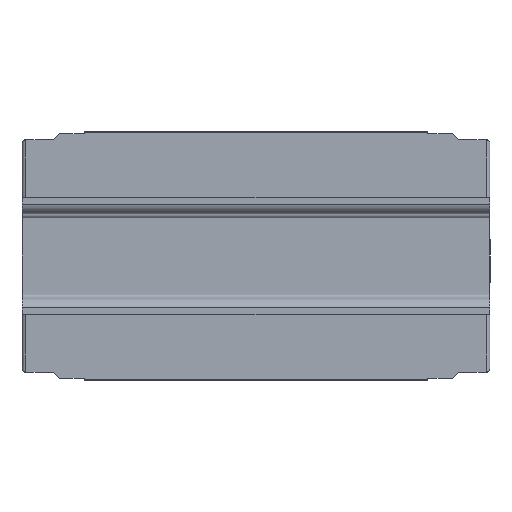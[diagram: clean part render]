
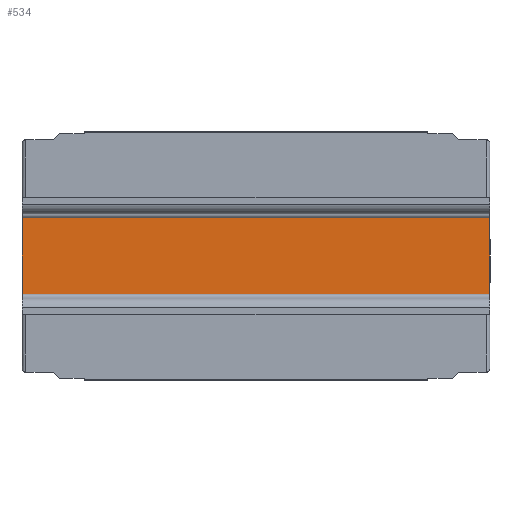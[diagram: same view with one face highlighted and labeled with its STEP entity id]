
A CAD part, front view. The second image highlights one B-rep face of the part: STEP entity #534.
In plain terms, the highlighted planar face has unit normal (0, -1, 0).
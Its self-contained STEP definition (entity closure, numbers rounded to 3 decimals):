
#17 = VERTEX_POINT ( 'NONE', #5847 ) ;
#26 = VERTEX_POINT ( 'NONE', #5831 ) ;
#40 = EDGE_CURVE ( 'NONE', #26, #17, #5869, .T. ) ;
#534 = ADVANCED_FACE ( 'NONE', ( #7367 ), #7365, .F. ) ;
#535 = EDGE_LOOP ( 'NONE', ( #536, #539, #542, #544 ) ) ;
#536 = ORIENTED_EDGE ( 'NONE', *, *, #537, .T. ) ;
#537 = EDGE_CURVE ( 'NONE', #17, #538, #6879, .T. ) ;
#538 = VERTEX_POINT ( 'NONE', #7426 ) ;
#539 = ORIENTED_EDGE ( 'NONE', *, *, #540, .F. ) ;
#540 = EDGE_CURVE ( 'NONE', #541, #538, #7425, .T. ) ;
#541 = VERTEX_POINT ( 'NONE', #7421 ) ;
#542 = ORIENTED_EDGE ( 'NONE', *, *, #543, .T. ) ;
#543 = EDGE_CURVE ( 'NONE', #541, #26, #7420, .T. ) ;
#544 = ORIENTED_EDGE ( 'NONE', *, *, #40, .T. ) ;
#5831 = CARTESIAN_POINT ( 'NONE',  ( -70., 9.5, -6.7 ) ) ;
#5847 = CARTESIAN_POINT ( 'NONE',  ( -10., 9.5, -6.7 ) ) ;
#5866 = DIRECTION ( 'NONE',  ( 1., 0., 0. ) ) ;
#5867 = VECTOR ( 'NONE', #5866, 1000. ) ;
#5868 = CARTESIAN_POINT ( 'NONE',  ( -70., 9.5, -6.7 ) ) ;
#5869 = LINE ( 'NONE', #5868, #5867 ) ;
#6878 = CARTESIAN_POINT ( 'NONE',  ( -10., 9.5, -7.5 ) ) ;
#6879 = LINE ( 'NONE', #6878, #6881 ) ;
#6881 = VECTOR ( 'NONE', #7366, 1000. ) ;
#7361 = DIRECTION ( 'NONE',  ( 0., 0., 1. ) ) ;
#7362 = DIRECTION ( 'NONE',  ( 0., 1., 0. ) ) ;
#7363 = CARTESIAN_POINT ( 'NONE',  ( -43.75, 9.5, 0. ) ) ;
#7364 = AXIS2_PLACEMENT_3D ( 'NONE', #7363, #7362, #7361 ) ;
#7365 = PLANE ( 'NONE',  #7364 ) ;
#7366 = DIRECTION ( 'NONE',  ( 0., 0., 1. ) ) ;
#7367 = FACE_OUTER_BOUND ( 'NONE', #535, .T. ) ;
#7417 = DIRECTION ( 'NONE',  ( 0., 0., -1. ) ) ;
#7418 = VECTOR ( 'NONE', #7417, 1000. ) ;
#7419 = CARTESIAN_POINT ( 'NONE',  ( -70., 9.5, -7.5 ) ) ;
#7420 = LINE ( 'NONE', #7419, #7418 ) ;
#7421 = CARTESIAN_POINT ( 'NONE',  ( -70., 9.5, 6.7 ) ) ;
#7422 = DIRECTION ( 'NONE',  ( 1., 0., 0. ) ) ;
#7423 = VECTOR ( 'NONE', #7422, 1000. ) ;
#7424 = CARTESIAN_POINT ( 'NONE',  ( -70., 9.5, 6.7 ) ) ;
#7425 = LINE ( 'NONE', #7424, #7423 ) ;
#7426 = CARTESIAN_POINT ( 'NONE',  ( -10., 9.5, 6.7 ) ) ;
